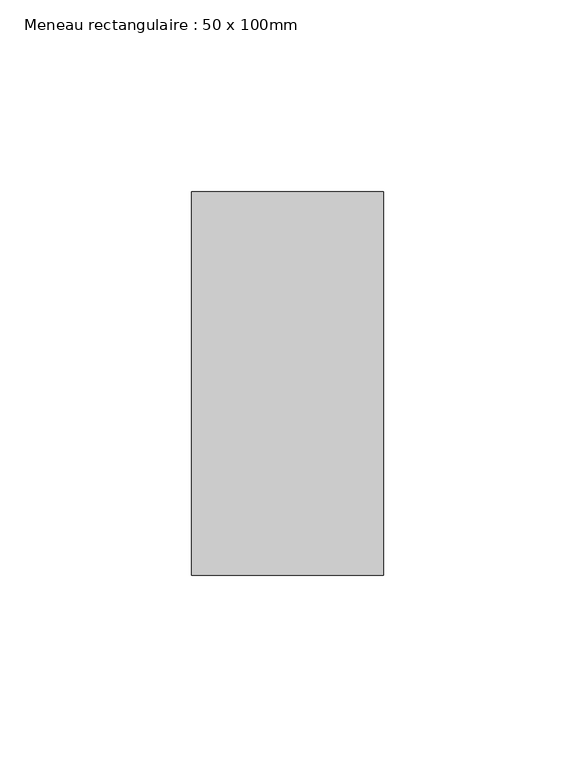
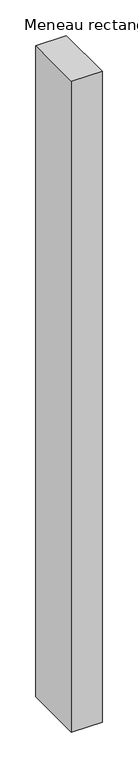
"""IFC4 building model written with IfcOpenShell, lengths in millimetres: member geometry, Meneau rectangulaire : 50 x 100mm."""

from ifc_helpers import new_model, si_unit, frame, origin, place, context, project, spatial, polyline, outline, extrude, source, transform, mapped, element, save


def meneau_rectangulaire_50_x_100mm_1a1e636b(model_context):
    return source(origin(), model_context, "Body", "SweptSolid", [
        extrude(outline(polyline([(0.0, 50.0), (0.0, -50.0), (-50.0, -50.0), (-50.0, 50.0), (0.0, 50.0)])), frame((0.0, 0.0, -1115.8573191), z_axis=(0.0, 0.0, 1.0), x_axis=(1.0, 0.0, 0.0)), (0.0, 0.0, 1.0), 1115.8573191),
    ])


if __name__ == "__main__":
    model = new_model("IFC4")
    model_context = context("Model", 3, world=origin())
    ifc_project = project(units=[si_unit("LENGTHUNIT", "METRE", prefix="MILLI")], contexts=[model_context])
    site = spatial("IfcSite", under=ifc_project)
    building = spatial("IfcBuilding", under=site)
    placement = place(None, origin())
    meneau_rectangulaire_50_x_100mm_shape = meneau_rectangulaire_50_x_100mm_1a1e636b(model_context)
    element("IfcMember", 1, ObjectType="Meneau rectangulaire : 50 x 100mm", at=placement, inside=building, context=model_context, shape_type="MappedRepresentation", body=[
        mapped(meneau_rectangulaire_50_x_100mm_shape, transform((0.0, 0.0, 0.0), x_axis=(1.0, 0.0, 0.0), y_axis=(0.0, 1.0, 0.0), z_axis=(0.0, 0.0, 1.0))),
    ])
    save(model, "model.ifc")
